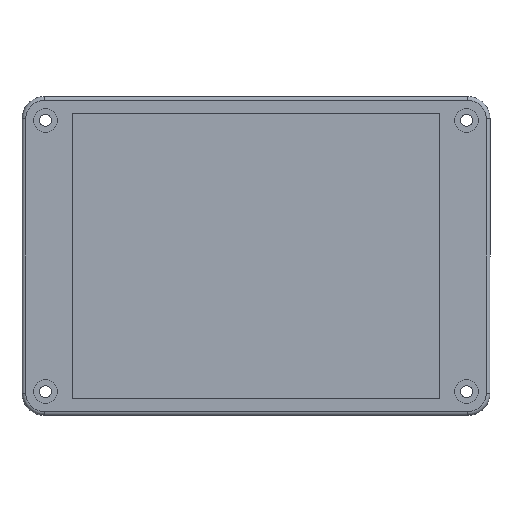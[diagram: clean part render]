
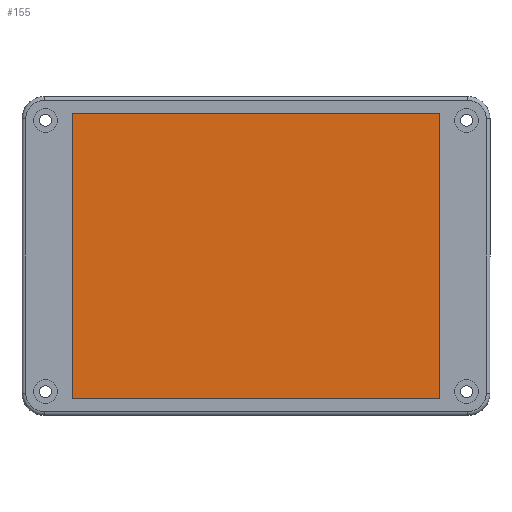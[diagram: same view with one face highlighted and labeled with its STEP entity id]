
A CAD part, front view. The second image highlights one B-rep face of the part: STEP entity #155.
In plain terms, the highlighted planar face has unit normal (0, -1, 0).
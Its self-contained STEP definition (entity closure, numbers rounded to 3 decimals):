
#22 = VERTEX_POINT ( 'NONE', #204 ) ;
#61 = EDGE_CURVE ( 'NONE', #468, #644, #2016, .T. ) ;
#80 = DIRECTION ( 'NONE',  ( 0., 0., 1. ) ) ;
#113 = CARTESIAN_POINT ( 'NONE',  ( 49.25, 0.5, 38.25 ) ) ;
#155 = ADVANCED_FACE ( 'NONE', ( #1063 ), #2856, .T. ) ;
#204 = CARTESIAN_POINT ( 'NONE',  ( 49.25, 0.5, 38.25 ) ) ;
#414 = LINE ( 'NONE', #113, #635 ) ;
#439 = CARTESIAN_POINT ( 'NONE',  ( 49.25, 0.5, -38.25 ) ) ;
#468 = VERTEX_POINT ( 'NONE', #1405 ) ;
#635 = VECTOR ( 'NONE', #80, 1000. ) ;
#644 = VERTEX_POINT ( 'NONE', #3491 ) ;
#968 = CARTESIAN_POINT ( 'NONE',  ( -49.25, 0.5, 38.25 ) ) ;
#1063 = FACE_OUTER_BOUND ( 'NONE', #1167, .T. ) ;
#1085 = EDGE_CURVE ( 'NONE', #2695, #22, #414, .T. ) ;
#1093 = DIRECTION ( 'NONE',  ( 1., 0., 0. ) ) ;
#1167 = EDGE_LOOP ( 'NONE', ( #3273, #1537, #3516, #1573 ) ) ;
#1169 = DIRECTION ( 'NONE',  ( -1., 0., 0. ) ) ;
#1286 = CARTESIAN_POINT ( 'NONE',  ( -49.25, 0.5, -38.25 ) ) ;
#1405 = CARTESIAN_POINT ( 'NONE',  ( -49.25, 0.5, 38.25 ) ) ;
#1438 = VECTOR ( 'NONE', #2008, 1000. ) ;
#1453 = EDGE_CURVE ( 'NONE', #22, #468, #3761, .T. ) ;
#1537 = ORIENTED_EDGE ( 'NONE', *, *, #1560, .T. ) ;
#1560 = EDGE_CURVE ( 'NONE', #644, #2695, #3221, .T. ) ;
#1573 = ORIENTED_EDGE ( 'NONE', *, *, #1453, .T. ) ;
#2008 = DIRECTION ( 'NONE',  ( 0., 0., -1. ) ) ;
#2016 = LINE ( 'NONE', #3158, #1438 ) ;
#2345 = AXIS2_PLACEMENT_3D ( 'NONE', #3448, #2843, #2828 ) ;
#2695 = VERTEX_POINT ( 'NONE', #439 ) ;
#2828 = DIRECTION ( 'NONE',  ( 0., 0., -1. ) ) ;
#2843 = DIRECTION ( 'NONE',  ( 0., -1., 0. ) ) ;
#2856 = PLANE ( 'NONE',  #2345 ) ;
#3131 = VECTOR ( 'NONE', #1093, 1000. ) ;
#3158 = CARTESIAN_POINT ( 'NONE',  ( -49.25, 0.5, 38.25 ) ) ;
#3221 = LINE ( 'NONE', #1286, #3131 ) ;
#3273 = ORIENTED_EDGE ( 'NONE', *, *, #61, .T. ) ;
#3365 = VECTOR ( 'NONE', #1169, 1000. ) ;
#3448 = CARTESIAN_POINT ( 'NONE',  ( 0., 0.5, 0. ) ) ;
#3491 = CARTESIAN_POINT ( 'NONE',  ( -49.25, 0.5, -38.25 ) ) ;
#3516 = ORIENTED_EDGE ( 'NONE', *, *, #1085, .T. ) ;
#3761 = LINE ( 'NONE', #968, #3365 ) ;
